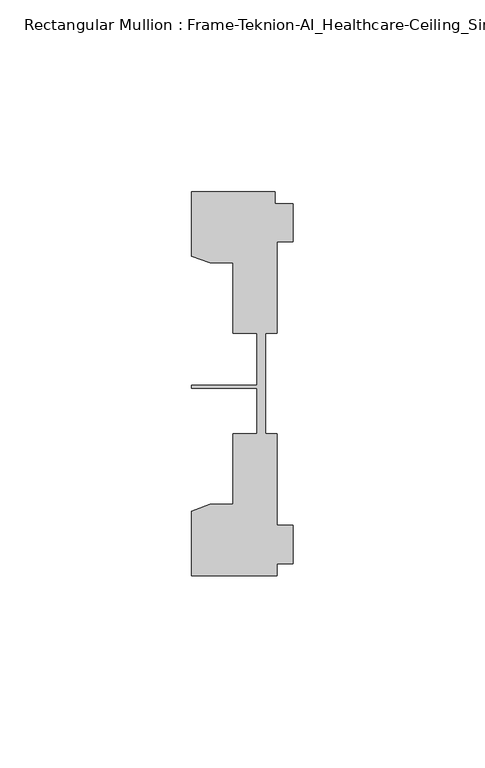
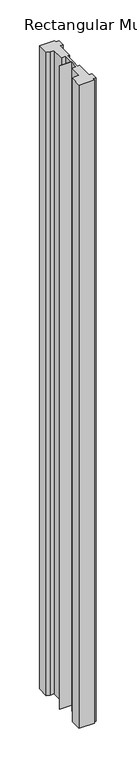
"""IFC4 building model written with IfcOpenShell, lengths in millimetres: member geometry, Rectangular Mullion : Frame-Teknion-AI_Healthcare-Ceiling_Single_Channel."""

from ifc_helpers import new_model, si_unit, frame, origin, place, context, project, spatial, polyline, outline, extrude, source, transform, mapped, element, save


def rectangular_mullion_frame_teknion_ai_healthcare_ceiling_334a6de3(model_context):
    return source(origin(), model_context, "Body", "SweptSolid", [
        extrude(outline(polyline([(-26.4921999, 34.0201677), (-26.4921999, 50.8315128), (-4.7752002, 50.8315128), (-4.7752002, 47.782071), (0.0, 47.782071), (0.0, 37.7820716), (-4.2672007, 37.7820716), (-4.2672007, 13.9110722), (-7.1647766, 13.9110722), (-7.1647766, 0.0814804), (-7.1647766, -12.2509301), (-4.2672007, -12.2509301), (-4.2672007, -36.1219249), (0.0, -36.1219249), (0.0, -46.1219322), (-4.2672007, -46.1219322), (-4.2672007, -49.1699293), (-26.4921999, -49.1699293), (-26.4921999, -32.3600207), (-21.6625199, -30.6279561), (-15.6737764, -30.6279561), (-15.6737764, -12.2509301), (-9.4507761, -12.2509301), (-9.4507761, -0.4036528), (-26.4921999, -0.4036528), (-26.4921999, 0.4036528), (-9.4507761, 0.4036528), (-9.4507761, 13.9110722), (-15.6737764, 13.9110722), (-15.6737764, 32.2880982), (-21.6625199, 32.2880982), (-26.4921999, 34.0201677)])), frame((0.0, 0.0, -990.6), z_axis=(0.0, 0.0, 1.0), x_axis=(1.0, 0.0, 0.0)), (0.0, 0.0, 1.0), 990.6),
    ])


if __name__ == "__main__":
    model = new_model("IFC4")
    model_context = context("Model", 3, world=origin())
    ifc_project = project(units=[si_unit("LENGTHUNIT", "METRE", prefix="MILLI")], contexts=[model_context])
    site = spatial("IfcSite", under=ifc_project)
    building = spatial("IfcBuilding", under=site)
    placement = place(None, origin())
    rectangular_mullion_frame_teknion_ai_healthcare_ceiling_shape = rectangular_mullion_frame_teknion_ai_healthcare_ceiling_334a6de3(model_context)
    element("IfcMember", 1, ObjectType="Rectangular Mullion : Frame-Teknion-AI_Healthcare-Ceiling_Single_Channel", at=placement, inside=building, context=model_context, shape_type="MappedRepresentation", body=[
        mapped(rectangular_mullion_frame_teknion_ai_healthcare_ceiling_shape, transform((0.0, 0.0, 0.0), x_axis=(1.0, 0.0, 0.0), y_axis=(0.0, 1.0, 0.0), z_axis=(0.0, 0.0, 1.0))),
    ])
    save(model, "model.ifc")
